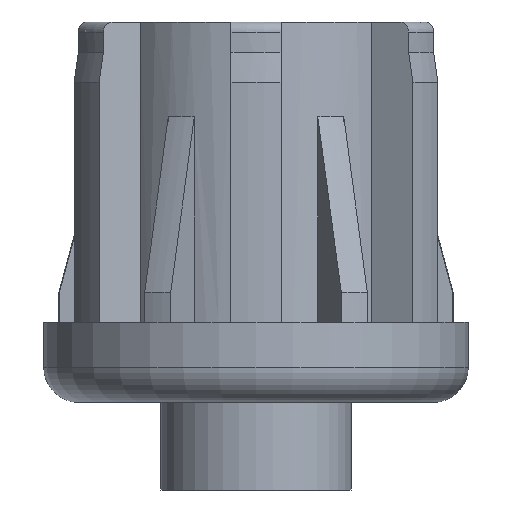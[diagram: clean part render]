
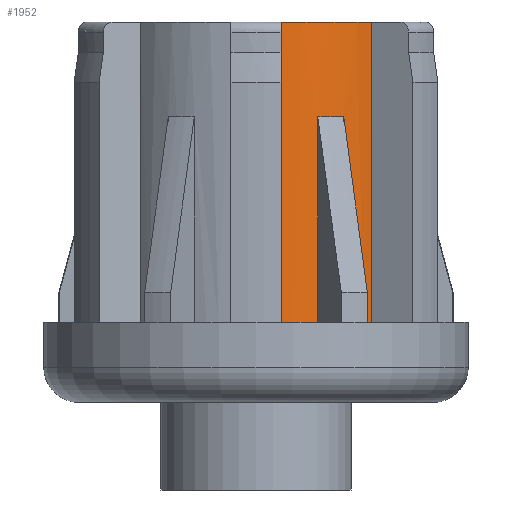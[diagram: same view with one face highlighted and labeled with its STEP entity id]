
A CAD part, front view. The second image highlights one B-rep face of the part: STEP entity #1952.
In plain terms, the highlighted cylindrical face has radius 15 mm (diameter 30 mm), a partial arc.
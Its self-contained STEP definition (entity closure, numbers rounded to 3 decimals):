
#13 = CARTESIAN_POINT ( 'NONE',  ( 0., 0., 27.791 ) ) ;
#30 = VECTOR ( 'NONE', #1094, 1000. ) ;
#39 = LINE ( 'NONE', #1181, #3302 ) ;
#56 = DIRECTION ( 'NONE',  ( 0., 0., 1. ) ) ;
#65 = ORIENTED_EDGE ( 'NONE', *, *, #2386, .T. ) ;
#90 = VERTEX_POINT ( 'NONE', #1999 ) ;
#91 = CARTESIAN_POINT ( 'NONE',  ( 0., 0., 7.25 ) ) ;
#102 = DIRECTION ( 'NONE',  ( 0., 0., 1. ) ) ;
#107 = VERTEX_POINT ( 'NONE', #2798 ) ;
#144 = CARTESIAN_POINT ( 'NONE',  ( 6.163, -13.675, 37.25 ) ) ;
#229 = AXIS2_PLACEMENT_3D ( 'NONE', #3035, #1996, #683 ) ;
#252 = CARTESIAN_POINT ( 'NONE',  ( 8.761, -12.175, 37.25 ) ) ;
#324 = VERTEX_POINT ( 'NONE', #1453 ) ;
#358 = EDGE_CURVE ( 'NONE', #1146, #775, #3225, .T. ) ;
#585 = VERTEX_POINT ( 'NONE', #1373 ) ;
#587 = CARTESIAN_POINT ( 'NONE',  ( 0., 0., 37.25 ) ) ;
#605 = DIRECTION ( 'NONE',  ( 0., 0., 1. ) ) ;
#653 = AXIS2_PLACEMENT_3D ( 'NONE', #13, #1804, #2276 ) ;
#679 = DIRECTION ( 'NONE',  ( 0., 0., -1. ) ) ;
#683 = DIRECTION ( 'NONE',  ( 1., 0., 0. ) ) ;
#761 = VECTOR ( 'NONE', #679, 1000. ) ;
#775 = VERTEX_POINT ( 'NONE', #2742 ) ;
#793 = DIRECTION ( 'NONE',  ( 0., 0., -1. ) ) ;
#799 = AXIS2_PLACEMENT_3D ( 'NONE', #91, #605, #2677 ) ;
#833 = CARTESIAN_POINT ( 'NONE',  ( 2.5, -14.79, 37.25 ) ) ;
#989 = LINE ( 'NONE', #252, #1149 ) ;
#1094 = DIRECTION ( 'NONE',  ( 0., 0., -1. ) ) ;
#1125 = AXIS2_PLACEMENT_3D ( 'NONE', #2920, #102, #1893 ) ;
#1146 = VERTEX_POINT ( 'NONE', #3306 ) ;
#1149 = VECTOR ( 'NONE', #793, 1000. ) ;
#1181 = CARTESIAN_POINT ( 'NONE',  ( 11.559, -9.56, 37.25 ) ) ;
#1272 = CARTESIAN_POINT ( 'NONE',  ( 11.559, -9.56, 7.25 ) ) ;
#1318 = ORIENTED_EDGE ( 'NONE', *, *, #358, .F. ) ;
#1323 = CARTESIAN_POINT ( 'NONE',  ( 2.5, -14.79, 37.25 ) ) ;
#1339 = DIRECTION ( 'NONE',  ( -1., 0., 0. ) ) ;
#1365 = ORIENTED_EDGE ( 'NONE', *, *, #1413, .T. ) ;
#1373 = CARTESIAN_POINT ( 'NONE',  ( 8.761, -12.175, 7.25 ) ) ;
#1384 = CIRCLE ( 'NONE', #229, 15. ) ;
#1413 = EDGE_CURVE ( 'NONE', #90, #775, #2014, .T. ) ;
#1453 = CARTESIAN_POINT ( 'NONE',  ( 11.559, -9.56, 37.25 ) ) ;
#1804 = DIRECTION ( 'NONE',  ( 0., 0., -1. ) ) ;
#1887 = EDGE_CURVE ( 'NONE', #107, #1146, #2353, .T. ) ;
#1893 = DIRECTION ( 'NONE',  ( 1., 0., 0. ) ) ;
#1941 = ORIENTED_EDGE ( 'NONE', *, *, #3308, .F. ) ;
#1952 = ADVANCED_FACE ( 'NONE', ( #2896 ), #3256, .T. ) ;
#1996 = DIRECTION ( 'NONE',  ( 0., 0., 1. ) ) ;
#1999 = CARTESIAN_POINT ( 'NONE',  ( 2.5, -14.79, 7.25 ) ) ;
#2014 = CIRCLE ( 'NONE', #799, 15. ) ;
#2163 = EDGE_CURVE ( 'NONE', #324, #2398, #39, .T. ) ;
#2224 = CIRCLE ( 'NONE', #1125, 15. ) ;
#2276 = DIRECTION ( 'NONE',  ( -1., 0., 0. ) ) ;
#2353 = CIRCLE ( 'NONE', #653, 15. ) ;
#2366 = AXIS2_PLACEMENT_3D ( 'NONE', #587, #56, #1339 ) ;
#2386 = EDGE_CURVE ( 'NONE', #107, #585, #989, .T. ) ;
#2398 = VERTEX_POINT ( 'NONE', #1272 ) ;
#2653 = EDGE_CURVE ( 'NONE', #585, #2398, #2224, .T. ) ;
#2677 = DIRECTION ( 'NONE',  ( 1., 0., 0. ) ) ;
#2709 = ORIENTED_EDGE ( 'NONE', *, *, #2163, .F. ) ;
#2742 = CARTESIAN_POINT ( 'NONE',  ( 6.163, -13.675, 7.25 ) ) ;
#2763 = ORIENTED_EDGE ( 'NONE', *, *, #1887, .F. ) ;
#2798 = CARTESIAN_POINT ( 'NONE',  ( 8.761, -12.175, 27.791 ) ) ;
#2896 = FACE_OUTER_BOUND ( 'NONE', #3050, .T. ) ;
#2920 = CARTESIAN_POINT ( 'NONE',  ( 0., 0., 7.25 ) ) ;
#2950 = VERTEX_POINT ( 'NONE', #1323 ) ;
#2955 = ORIENTED_EDGE ( 'NONE', *, *, #2653, .T. ) ;
#3011 = DIRECTION ( 'NONE',  ( 0., 0., -1. ) ) ;
#3035 = CARTESIAN_POINT ( 'NONE',  ( 0., 0., 37.25 ) ) ;
#3048 = EDGE_CURVE ( 'NONE', #2950, #90, #3096, .T. ) ;
#3050 = EDGE_LOOP ( 'NONE', ( #1941, #3224, #1365, #1318, #2763, #65, #2955, #2709 ) ) ;
#3096 = LINE ( 'NONE', #833, #30 ) ;
#3224 = ORIENTED_EDGE ( 'NONE', *, *, #3048, .T. ) ;
#3225 = LINE ( 'NONE', #144, #761 ) ;
#3256 = CYLINDRICAL_SURFACE ( 'NONE', #2366, 15. ) ;
#3302 = VECTOR ( 'NONE', #3011, 1000. ) ;
#3306 = CARTESIAN_POINT ( 'NONE',  ( 6.163, -13.675, 27.791 ) ) ;
#3308 = EDGE_CURVE ( 'NONE', #2950, #324, #1384, .T. ) ;
